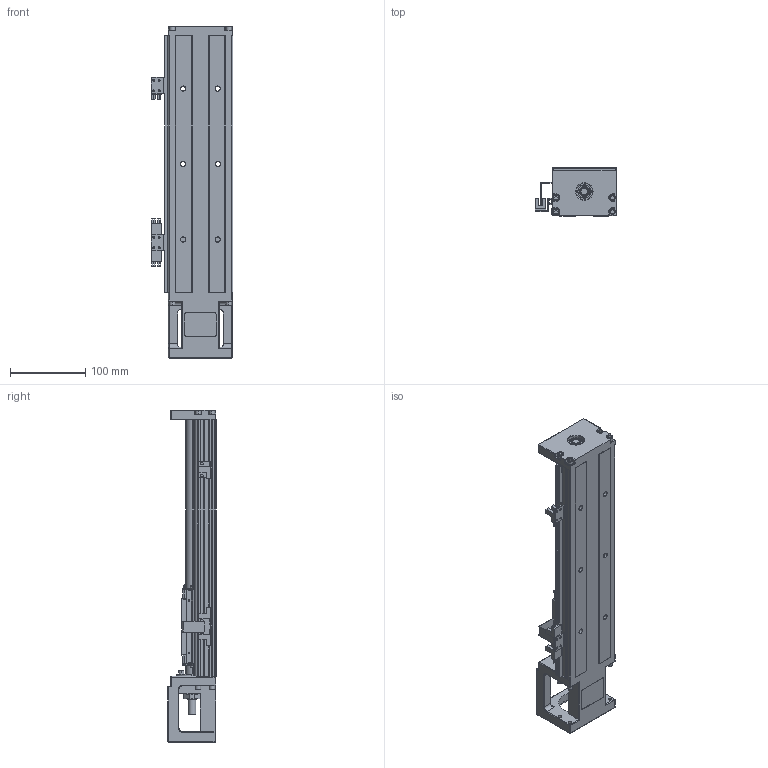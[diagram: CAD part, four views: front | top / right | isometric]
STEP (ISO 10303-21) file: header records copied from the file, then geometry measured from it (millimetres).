
FILE_DESCRIPTION (( 'STEP AP214' ), '1' );
FILE_NAME ('SFKK86-340A1-F0.STEP', '2022-05-05T03:47:02', ( '微软用户' ), ( '微软中国' ), 'SwSTEP 2.0', 'SolidWorks 2018', '' );
FILE_SCHEMA (( 'AUTOMOTIVE_DESIGN' ));
Length unit declared in the file: millimetre
Products named in the file (8): 不带盖挡光片：KK-86-S2-D2; 极限轨道与开关固定座组合_340; 开关固定座：KK-674S2-F; SFKK86-340A1-F0; SFKK86-F0_KKR86-ZT-P-340; SFKK86-LR 憤癹寢耋_340; SX674嫖萇羲壽; SFKK86-A1
Assembly tree (10 placements, depth 3):
  SFKK86-340A1-F0
    SFKK86-F0_KKR86-ZT-P-340
    SFKK86-A1
    极限轨道与开关固定座组合_340
      SFKK86-LR 憤癹寢耋_340
      开关固定座：KK-674S2-F  x2
    不带盖挡光片：KK-86-S2-D2
    SX674嫖萇羲壽  x3
Bounding box: 108.25 x 64 x 440 mm (x, y, z)
Volume: 953097.8 mm3; surface area: 249782.6 mm2
Topology: 26 solids, 26 shells, 1437 faces, 3691 edges, 2312 vertices
Faces by surface type: plane 724, cylinder 501, cone 134, torus 51, sphere 23, bspline 4
Entity records: 47851 total; most frequent: CARTESIAN_POINT 9649, DIRECTION 6953, ORIENTED_EDGE 6636, EDGE_CURVE 3318, AXIS2_PLACEMENT_3D 2436, VERTEX_POINT 2118, LINE 2081, VECTOR 2081
